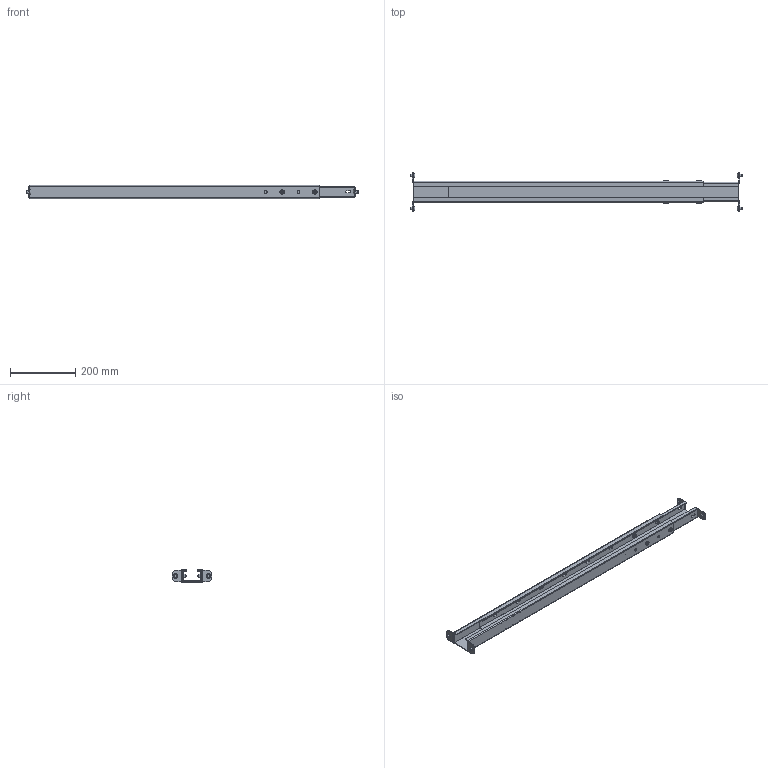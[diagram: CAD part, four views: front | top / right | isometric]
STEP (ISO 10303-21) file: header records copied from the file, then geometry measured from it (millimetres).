
FILE_DESCRIPTION(/* description */ ('Unknown'),/* implementation_level */ '2;1');
FILE_NAME(/* name */ '127.00842_00-1000mm',/* time_stamp */ '2025-11-05T10:12:26+01:00',/* author */ ('Unknown'),/* organization */ ('Unknown'),/* preprocessor_version */ 'ST-DEVELOPER v20',/* originating_system */ 'Solid Edge',/* authorisation */ 'Unknown');
FILE_SCHEMA (('AUTOMOTIVE_DESIGN {1 0 10303 214 3 1 1}'));
Length unit declared in the file: millimetre
Products named in the file (7): 127.00842; E1 Traverse aussen; E1 Traverse innen; Halbrundkopfschraube M6x16; Scheibe ﾘ6,4; Sechskantmutter M6; Halbrundkopfschraube M8x10
Assembly tree (18 placements, depth 2):
  127.00842
    E1 Traverse aussen
    E1 Traverse innen
    Halbrundkopfschraube M6x16  x4
    Scheibe ﾘ6,4  x4
    Sechskantmutter M6  x4
    Halbrundkopfschraube M8x10  x4
Bounding box: 1015 x 120 x 40 mm (x, y, z)
Volume: 675253.3 mm3; surface area: 555062.8 mm2
Topology: 18 solids, 18 shells, 593 faces, 1499 edges, 962 vertices
Faces by surface type: plane 260, cylinder 201, torus 72, bspline 48, cone 8, sphere 4
Full cylindrical faces by diameter (mm): 6 x8, 6.4 x4, 8 x4, 12 x4, 13.6 x4, 14 x4
Entity records: 9999 total; most frequent: CARTESIAN_POINT 2361, ORIENTED_EDGE 1530, DIRECTION 1523, EDGE_CURVE 765, AXIS2_PLACEMENT_3D 535, VERTEX_POINT 508, LINE 453, VECTOR 453
